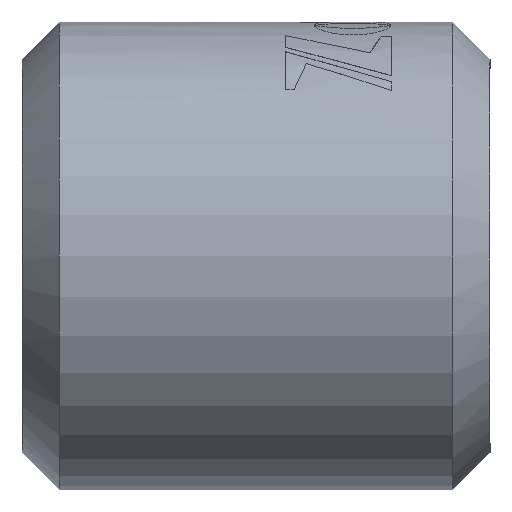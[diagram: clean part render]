
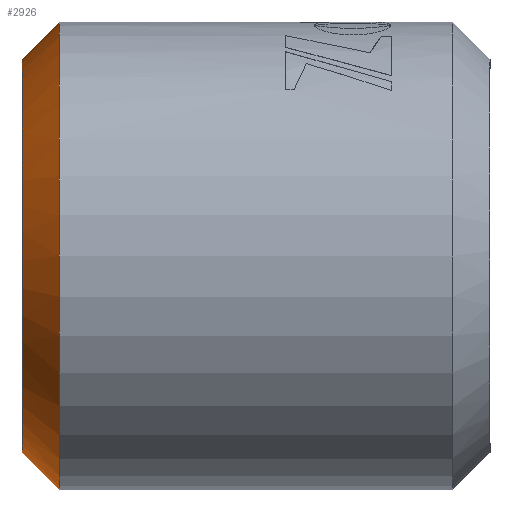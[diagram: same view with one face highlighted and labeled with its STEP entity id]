
A CAD part, left-side view. The second image highlights one B-rep face of the part: STEP entity #2926.
In plain terms, the highlighted conical face has half-angle 45 degrees and reference radius 10.5 mm.
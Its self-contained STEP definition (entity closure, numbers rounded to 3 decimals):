
#38 = EDGE_CURVE ( 'NONE', #14069, #1135, #2158, .T. ) ;
#103 = CARTESIAN_POINT ( 'NONE',  ( -2.552, 4.59, 35.5 ) ) ;
#207 = CARTESIAN_POINT ( 'NONE',  ( -3.925, 4.59, 14.567 ) ) ;
#302 = ORIENTED_EDGE ( 'NONE', *, *, #38, .F. ) ;
#1135 = VERTEX_POINT ( 'NONE', #8737 ) ;
#1181 = CARTESIAN_POINT ( 'NONE',  ( -2.552, 4.59, 25. ) ) ;
#1232 = DIRECTION ( 'NONE',  ( 0., -1., 0. ) ) ;
#1318 = CARTESIAN_POINT ( 'NONE',  ( -7.207, 4.59, 15.563 ) ) ;
#1491 = CIRCLE ( 'NONE', #10713, 12.5 ) ;
#1867 = LINE ( 'NONE', #9700, #13265 ) ;
#2031 = DIRECTION ( 'NONE',  ( 0., -0.707, -0.707 ) ) ;
#2146 = CARTESIAN_POINT ( 'NONE',  ( -2.552, 4.59, 14.5 ) ) ;
#2158 = LINE ( 'NONE', #4188, #4060 ) ;
#2301 = CARTESIAN_POINT ( 'NONE',  ( -10.464, 4.59, 18.063 ) ) ;
#2545 = CARTESIAN_POINT ( 'NONE',  ( -5.934, 4.59, 34.964 ) ) ;
#2593 = CARTESIAN_POINT ( 'NONE',  ( -7.813, 4.59, 34.113 ) ) ;
#2698 = CARTESIAN_POINT ( 'NONE',  ( -10.464, 4.59, 31.937 ) ) ;
#2926 = ADVANCED_FACE ( 'NONE', ( #9373 ), #5242, .T. ) ;
#3393 = CARTESIAN_POINT ( 'NONE',  ( -11.666, 4.59, 19.739 ) ) ;
#3453 = EDGE_CURVE ( 'NONE', #13952, #14069, #6242, .T. ) ;
#3541 = CARTESIAN_POINT ( 'NONE',  ( -13.052, 4.59, 24.311 ) ) ;
#3593 = CARTESIAN_POINT ( 'NONE',  ( -12.517, 4.59, 28.382 ) ) ;
#3676 = EDGE_LOOP ( 'NONE', ( #302, #13303, #12130, #10593 ) ) ;
#3780 = CARTESIAN_POINT ( 'NONE',  ( -12.716, 4.59, 27.724 ) ) ;
#4060 = VECTOR ( 'NONE', #11537, 1000. ) ;
#4188 = CARTESIAN_POINT ( 'NONE',  ( -2.552, 4.59, 35.5 ) ) ;
#4499 = CARTESIAN_POINT ( 'NONE',  ( -12.716, 4.59, 22.276 ) ) ;
#4701 = CARTESIAN_POINT ( 'NONE',  ( -10.9, 4.59, 31.406 ) ) ;
#4827 = DIRECTION ( 'NONE',  ( 0., 0., -1. ) ) ;
#4907 = CARTESIAN_POINT ( 'NONE',  ( -11.666, 4.59, 30.261 ) ) ;
#4939 = AXIS2_PLACEMENT_3D ( 'NONE', #1181, #1232, #11485 ) ;
#5242 = CONICAL_SURFACE ( 'NONE', #4939, 10.5, 0.785 ) ;
#5621 = CARTESIAN_POINT ( 'NONE',  ( -12.985, 4.59, 23.627 ) ) ;
#5873 = CARTESIAN_POINT ( 'NONE',  ( -2.552, 4.59, 35.5 ) ) ;
#6242 = B_SPLINE_CURVE_WITH_KNOTS ( 'NONE', 3,
 ( #6838, #7891, #207, #7944, #9090, #1318, #10218, #13312, #9042, #2301, #12236, #3393, #10170, #11132, #4499, #5621, #3541, #9244, #6930, #3780, #3593, #8044, #4907, #4701, #2698, #9291, #8237, #2593, #11322, #2545, #12436, #11414, #13649, #5873 ),
 .UNSPECIFIED., .F., .F.,
 ( 4, 2, 2, 2, 2, 2, 2, 2, 2, 2, 2, 2, 2, 2, 2, 2, 4 ),
 ( 0., 0.062, 0.125, 0.187, 0.25, 0.312, 0.375, 0.437, 0.5, 0.562, 0.625, 0.687, 0.75, 0.813, 0.875, 0.938, 1. ),
 .UNSPECIFIED. ) ;
#6838 = CARTESIAN_POINT ( 'NONE',  ( -2.552, 4.59, 14.5 ) ) ;
#6867 = CARTESIAN_POINT ( 'NONE',  ( -2.552, 2.59, 25. ) ) ;
#6930 = CARTESIAN_POINT ( 'NONE',  ( -12.985, 4.59, 26.373 ) ) ;
#7891 = CARTESIAN_POINT ( 'NONE',  ( -3.242, 4.59, 14.5 ) ) ;
#7944 = CARTESIAN_POINT ( 'NONE',  ( -5.277, 4.59, 14.836 ) ) ;
#8044 = CARTESIAN_POINT ( 'NONE',  ( -11.99, 4.59, 29.655 ) ) ;
#8237 = CARTESIAN_POINT ( 'NONE',  ( -8.959, 4.59, 33.348 ) ) ;
#8737 = CARTESIAN_POINT ( 'NONE',  ( -2.552, 2.59, 37.5 ) ) ;
#9042 = CARTESIAN_POINT ( 'NONE',  ( -9.49, 4.59, 17.088 ) ) ;
#9090 = CARTESIAN_POINT ( 'NONE',  ( -5.934, 4.59, 15.036 ) ) ;
#9222 = DIRECTION ( 'NONE',  ( 0., 1., 0. ) ) ;
#9244 = CARTESIAN_POINT ( 'NONE',  ( -13.053, 4.59, 25.689 ) ) ;
#9291 = CARTESIAN_POINT ( 'NONE',  ( -9.49, 4.59, 32.912 ) ) ;
#9373 = FACE_OUTER_BOUND ( 'NONE', #3676, .T. ) ;
#9700 = CARTESIAN_POINT ( 'NONE',  ( -2.552, 4.59, 14.5 ) ) ;
#10170 = CARTESIAN_POINT ( 'NONE',  ( -11.989, 4.59, 20.345 ) ) ;
#10218 = CARTESIAN_POINT ( 'NONE',  ( -7.813, 4.59, 15.887 ) ) ;
#10593 = ORIENTED_EDGE ( 'NONE', *, *, #11521, .T. ) ;
#10713 = AXIS2_PLACEMENT_3D ( 'NONE', #6867, #9222, #4827 ) ;
#10806 = EDGE_CURVE ( 'NONE', #13952, #11825, #1867, .T. ) ;
#11132 = CARTESIAN_POINT ( 'NONE',  ( -12.517, 4.59, 21.618 ) ) ;
#11322 = CARTESIAN_POINT ( 'NONE',  ( -7.207, 4.59, 34.437 ) ) ;
#11414 = CARTESIAN_POINT ( 'NONE',  ( -3.925, 4.59, 35.433 ) ) ;
#11485 = DIRECTION ( 'NONE',  ( 0., 0., -1. ) ) ;
#11521 = EDGE_CURVE ( 'NONE', #11825, #1135, #1491, .T. ) ;
#11537 = DIRECTION ( 'NONE',  ( 0., -0.707, 0.707 ) ) ;
#11825 = VERTEX_POINT ( 'NONE', #13078 ) ;
#12130 = ORIENTED_EDGE ( 'NONE', *, *, #10806, .T. ) ;
#12236 = CARTESIAN_POINT ( 'NONE',  ( -10.9, 4.59, 18.594 ) ) ;
#12436 = CARTESIAN_POINT ( 'NONE',  ( -5.277, 4.59, 35.164 ) ) ;
#13078 = CARTESIAN_POINT ( 'NONE',  ( -2.552, 2.59, 12.5 ) ) ;
#13265 = VECTOR ( 'NONE', #2031, 1000. ) ;
#13303 = ORIENTED_EDGE ( 'NONE', *, *, #3453, .F. ) ;
#13312 = CARTESIAN_POINT ( 'NONE',  ( -8.959, 4.59, 16.652 ) ) ;
#13649 = CARTESIAN_POINT ( 'NONE',  ( -3.242, 4.59, 35.5 ) ) ;
#13952 = VERTEX_POINT ( 'NONE', #2146 ) ;
#14069 = VERTEX_POINT ( 'NONE', #103 ) ;
